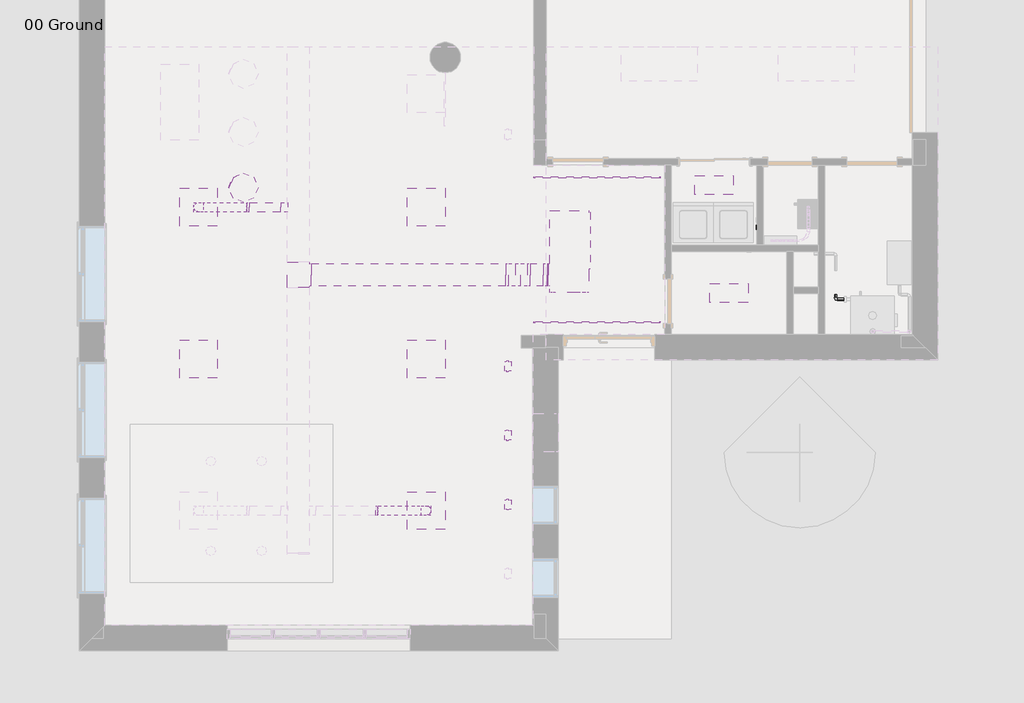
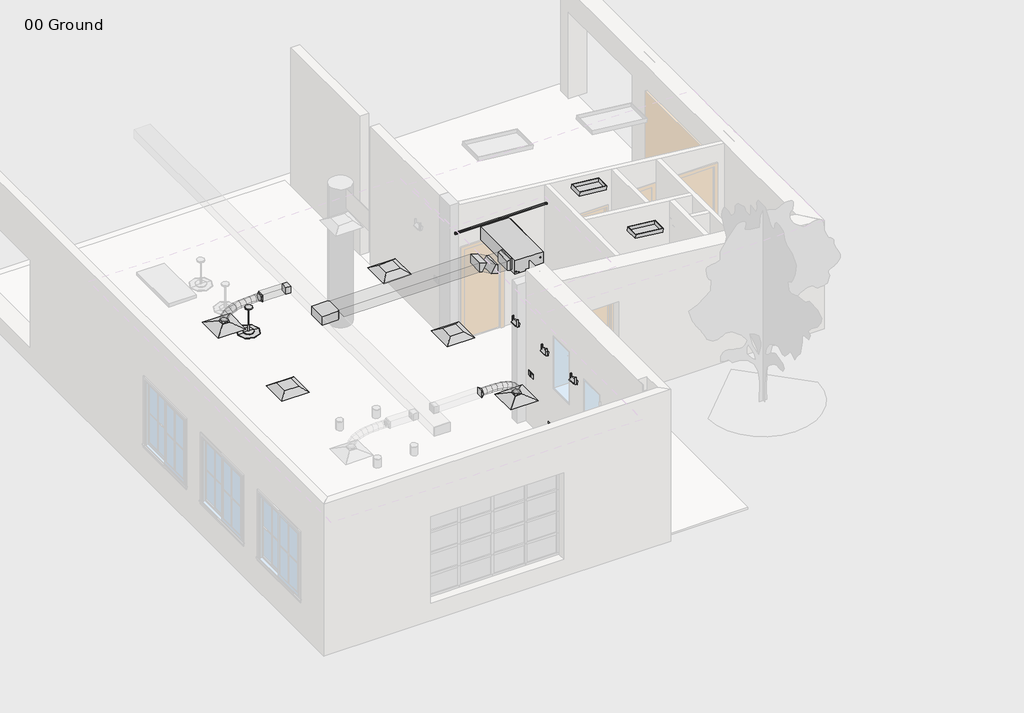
# One storey, part 4 of 7: 9 duct fittings, 8 light fixtures, 7 duct segments, 5 air terminals, 5 switching devices, 4 proxies, 2 pipe segments, 1 pipe fitting.
"""IFC4 building model written with IfcOpenShell, lengths in millimetres."""

from ifc_helpers import new_model, si_unit, point, frame, frame_2d, origin, place, context, project, spatial, polyline, circle_curve, ellipse_curve, trimmed, segment, composite_curve, outline, extrude, transform, mapped, element, save
from ifc_brep_helpers import plane_surface, cylinder_surface, advanced_brep
from components import m_return_diffuser_hosted_return_diffuser_600x600mm_735a5a32, m_supply_diffuser_hosted_supply_diffuser_600x600mm_c6a520ad, m_receptacle_220v_standard_10251bba, unit_60_e5105c5f, m_rectangular_elbow_radius_1_w_f31efba9, m_rectangular_takeoff_standard_4b23f397, m_rectangular_tee_standard_b38aa9c5, m_rectangular_transition_angle_45_degree_a7042dae, m_rectangular_to_round_transition_angle_45_degree_4e08f822, ceiling_light_linear_box_0300x0600mm_1_lamp_277v_269d04dc, m_downlight_spot_60_degree_tilt_277v_15926088, m_downlight_strip_2000mm_277v_8f60c8d5, m_downlight_strip_2000mm_277v_7a66b3e4, m_pendant_light_disk_150w_277v_c7fc852b, m_elbow_generic_standard_371413ad

model = new_model("IFC4")

# Units and contexts
model_context = context("Model", 3, world=origin())
ifc_project = project(units=[si_unit("LENGTHUNIT", "METRE", prefix="MILLI")], contexts=[model_context])

# Site, building, storey
site = spatial("IfcSite", under=ifc_project)
building = spatial("IfcBuilding", under=site)
storey = spatial("IfcBuildingStorey", under=building, Name="00 Ground", Elevation=0.0)

# Air terminals
placement = place(None, origin())
m_return_diffuser_hosted_return_diffuser_600x600mm_shape = m_return_diffuser_hosted_return_diffuser_600x600mm_735a5a32(model_context)
element("IfcAirTerminal", 1, ObjectType="M_Return Diffuser - Hosted : Return Diffuser 600x600mm", at=placement, inside=storey, context=model_context, shape_type="MappedRepresentation", body=[
    mapped(m_return_diffuser_hosted_return_diffuser_600x600mm_shape, transform((-6624.5407999, -3132.7101648, 2700.0), x_axis=(1.0, 0.0, 0.0), y_axis=(0.0, -1.0, 0.0), z_axis=(0.0, 0.0, -1.0))),
])
element("IfcAirTerminal", 2, ObjectType="M_Return Diffuser - Hosted : Return Diffuser 600x600mm", at=placement, inside=storey, context=model_context, shape_type="MappedRepresentation", body=[
    mapped(m_return_diffuser_hosted_return_diffuser_600x600mm_shape, transform((-3024.5407999, -3132.7101648, 2700.0), x_axis=(1.0, 0.0, 0.0), y_axis=(0.0, -1.0, 0.0), z_axis=(0.0, 0.0, -1.0))),
])
element("IfcAirTerminal", 3, ObjectType="M_Return Diffuser - Hosted : Return Diffuser 600x600mm", at=placement, inside=storey, context=model_context, shape_type="MappedRepresentation", body=[
    mapped(m_return_diffuser_hosted_return_diffuser_600x600mm_shape, transform((-3024.5407999, -732.7101648, 2700.0), x_axis=(1.0, 0.0, 0.0), y_axis=(0.0, -1.0, 0.0), z_axis=(0.0, 0.0, -1.0))),
])
m_supply_diffuser_hosted_supply_diffuser_600x600mm_shape = m_supply_diffuser_hosted_supply_diffuser_600x600mm_c6a520ad(model_context)
element("IfcAirTerminal", 4, ObjectType="M_Supply Diffuser - Hosted : Supply Diffuser 600x600mm", at=placement, inside=storey, context=model_context, shape_type="MappedRepresentation", body=[
    mapped(m_supply_diffuser_hosted_supply_diffuser_600x600mm_shape, transform((-6624.5407999, -732.7101648, 2700.0), x_axis=(1.0, 0.0, 0.0), y_axis=(0.0, -1.0, 0.0), z_axis=(0.0, 0.0, -1.0))),
])
element("IfcAirTerminal", 5, ObjectType="M_Supply Diffuser - Hosted : Supply Diffuser 600x600mm", at=placement, inside=storey, context=model_context, shape_type="MappedRepresentation", body=[
    mapped(m_supply_diffuser_hosted_supply_diffuser_600x600mm_shape, transform((-3024.5407999, -5532.7101648, 2700.0), x_axis=(1.0, 0.0, 0.0), y_axis=(0.0, -1.0, 0.0), z_axis=(0.0, 0.0, -1.0))),
])

# Proxies
m_receptacle_220v_standard_shape = m_receptacle_220v_standard_10251bba(model_context)
element("IfcBuildingElementProxy", 6, Name="M_Receptacle - 220V : Standard", ObjectType="M_Receptacle - 220V : Standard", at=placement, inside=storey, context=model_context, shape_type="MappedRepresentation", body=[
    mapped(m_receptacle_220v_standard_shape, transform((-1335.5407999, -3927.7101648, 460.0), x_axis=(0.0, -1.0, 0.0), y_axis=(0.0, 0.0, 1.0), z_axis=(-1.0, 0.0, 0.0))),
])
element("IfcBuildingElementProxy", 7, Name="M_Receptacle - 220V : Standard", ObjectType="M_Receptacle - 220V : Standard", at=placement, inside=storey, context=model_context, shape_type="MappedRepresentation", body=[
    mapped(m_receptacle_220v_standard_shape, transform((-1335.5407999, -3847.7101648, 460.0), x_axis=(0.0, -1.0, 0.0), y_axis=(0.0, 0.0, 1.0), z_axis=(-1.0, 0.0, 0.0))),
])
element("IfcBuildingElementProxy", 8, Name="M_Receptacle - 220V : Standard", ObjectType="M_Receptacle - 220V : Standard", at=placement, inside=storey, context=model_context, shape_type="MappedRepresentation", body=[
    mapped(m_receptacle_220v_standard_shape, transform((2202.4592001, -1052.7101648, 460.0), x_axis=(0.0, -1.0, 0.0), y_axis=(0.0, 0.0, 1.0), z_axis=(-1.0, 0.0, 0.0))),
])
unit_60_shape = unit_60_e5105c5f(model_context)
element("IfcBuildingElementProxy", 9, Name="M_WSHP - Horizontal : Unit 60", ObjectType="M_WSHP - Horizontal : Unit 60", at=placement, inside=storey, context=model_context, shape_type="MappedRepresentation", body=[
    mapped(unit_60_shape, transform((-1066.9679909, -783.2101648, 2765.0), x_axis=(0.0, -1.0, 0.0), y_axis=(1.0, 0.0, 0.0), z_axis=(0.0, 0.0, 1.0))),
])

# Duct fittings
m_rectangular_elbow_radius_1_w_shape = m_rectangular_elbow_radius_1_w_f31efba9(model_context)
element("IfcDuctFitting", 10, ObjectType="M_Rectangular Elbow - Radius : 1 W", at=placement, inside=storey, context=model_context, shape_type="MappedRepresentation", body=[
    mapped(m_rectangular_elbow_radius_1_w_shape, transform((-1714.6732409, -1802.2101648, 3090.0), x_axis=(1.0, 0.0, 0.0), y_axis=(0.0, 0.0, -1.0), z_axis=(0.0, 1.0, 0.0))),
])
element("IfcDuctFitting", 11, ObjectType="M_Rectangular Elbow - Radius : 1 W", at=placement, inside=storey, context=model_context, shape_type="MappedRepresentation", body=[
    mapped(m_rectangular_elbow_radius_1_w_shape, transform((-1429.5334622, -1802.2101648, 2925.3744989), x_axis=(0.8660254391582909, 0.0, -0.49999993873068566), y_axis=(0.49999993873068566, 0.0, 0.8660254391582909), z_axis=(0.0, -1.0, 0.0))),
])
m_rectangular_takeoff_standard_shape = m_rectangular_takeoff_standard_4b23f397(model_context)
element("IfcDuctFitting", 12, ObjectType="M_Rectangular Takeoff : Standard", at=placement, inside=storey, context=model_context, shape_type="MappedRepresentation", body=[
    mapped(m_rectangular_takeoff_standard_shape, transform((-5219.5407999, -732.7101648, 3090.0), x_axis=(-1.0, 0.0, 0.0), y_axis=(0.0, 1.0, 0.0), z_axis=(0.0, 0.0, -1.0))),
])
m_rectangular_tee_standard_shape = m_rectangular_tee_standard_b38aa9c5(model_context)
element("IfcDuctFitting", 13, ObjectType="M_Rectangular Tee : Standard", at=placement, inside=storey, context=model_context, shape_type="MappedRepresentation", body=[
    mapped(m_rectangular_tee_standard_shape, transform((-5044.5407999, -1802.2101648, 3090.0), x_axis=(0.0, 1.0, 0.0), y_axis=(-1.0, 0.0, 0.0), z_axis=(0.0, 0.0, 1.0))),
])
m_rectangular_transition_angle_45_degree_shape = m_rectangular_transition_angle_45_degree_a7042dae(model_context)
element("IfcDuctFitting", 14, ObjectType="M_Rectangular Transition - Angle : 45 Degree", at=placement, inside=storey, context=model_context, shape_type="MappedRepresentation", body=[
    mapped(m_rectangular_transition_angle_45_degree_shape, transform((-1172.9231661, -1802.2101648, 2925.3744989), x_axis=(1.0, 0.0, 0.0), y_axis=(0.0, 1.0, 0.0), z_axis=(0.0, 0.0, 1.0))),
])
m_rectangular_to_round_transition_angle_45_degree_shape = m_rectangular_to_round_transition_angle_45_degree_4e08f822(model_context)
element("IfcDuctFitting", 15, ObjectType="M_Rectangular to Round Transition - Angle : 45 Degree", at=placement, inside=storey, context=model_context, shape_type="MappedRepresentation", body=[
    mapped(m_rectangular_to_round_transition_angle_45_degree_shape, transform((-6624.5407999, -732.7101648, 2801.8523776), x_axis=(0.0, 0.0, 1.0), y_axis=(-1.0, 0.0, 0.0), z_axis=(0.0, -1.0, 0.0))),
])
element("IfcDuctFitting", 16, ObjectType="M_Rectangular to Round Transition - Angle : 45 Degree", at=placement, inside=storey, context=model_context, shape_type="MappedRepresentation", body=[
    mapped(m_rectangular_to_round_transition_angle_45_degree_shape, transform((-5824.8204567, -732.7101648, 3090.0), x_axis=(-1.0, 0.0, 0.0), y_axis=(0.0, -1.0, 0.0), z_axis=(0.0, 0.0, 1.0))),
])
element("IfcDuctFitting", 17, ObjectType="M_Rectangular to Round Transition - Angle : 45 Degree", at=placement, inside=storey, context=model_context, shape_type="MappedRepresentation", body=[
    mapped(m_rectangular_to_round_transition_angle_45_degree_shape, transform((-3024.5407999, -5532.7101648, 2801.8523776), x_axis=(0.0, 0.0, 1.0), y_axis=(-1.0, 0.0, 0.0), z_axis=(0.0, -1.0, 0.0))),
])
element("IfcDuctFitting", 18, ObjectType="M_Rectangular to Round Transition - Angle : 45 Degree", at=placement, inside=storey, context=model_context, shape_type="MappedRepresentation", body=[
    mapped(m_rectangular_to_round_transition_angle_45_degree_shape, transform((-3824.2611432, -5532.7101648, 3090.0), x_axis=(1.0, 0.0, 0.0), y_axis=(0.0, 1.0, 0.0), z_axis=(0.0, 0.0, 1.0))),
])

# Duct segments
element("IfcDuctSegment", 19, ObjectType="Flex - Round", at=placement, inside=storey, context=model_context, shape_type="AdvancedBrep", body=[
    advanced_brep(
    [(-6549.5407999, -732.7101648, 2839.3523776), (-6624.5407999, -807.7101648, 2839.3523776), (-6699.5407999, -732.7101648, 2839.3523776), (-6624.5407999, -657.7101648, 2839.3523776), (-6549.5407999, -732.7101648, 2845.2848901), (-6624.5407999, -807.7101648, 2855.419138), (-6699.5407999, -732.7101648, 2865.5533859), (-6624.5407999, -657.7101648, 2855.419138), (-6538.9605787, -732.7101648, 2883.7203187), (-6607.2067583, -807.7101648, 2918.3895908), (-6675.4529379, -732.7101648, 2953.0588628), (-6607.2067583, -657.7101648, 2918.3895908), (-6508.7482866, -732.7101648, 2921.7423363), (-6559.1665904, -807.7101648, 2978.8479003), (-6609.5848941, -732.7101648, 3035.9534644), (-6559.1665904, -657.7101648, 2978.8479003), (-6454.5294779, -732.7101648, 2954.7766158), (-6486.3632316, -807.7101648, 3023.205321), (-6518.1969853, -732.7101648, 3091.6340262), (-6486.3632316, -657.7101648, 3023.205321), (-6375.8137951, -732.7101648, 2981.1812805), (-6394.7396175, -807.7101648, 3053.9398674), (-6413.6654398, -732.7101648, 3126.6984544), (-6394.7396175, -657.7101648, 3053.9398674), (-6279.6508054, -732.7101648, 2999.207941), (-6290.2386834, -807.7101648, 3073.5295543), (-6300.8265614, -732.7101648, 3147.8511676), (-6290.2386834, -657.7101648, 3073.5295543), (-6173.5634766, -732.7101648, 3009.6065753), (-6178.8033648, -807.7101648, 3084.4523963), (-6184.043253, -732.7101648, 3159.2982173), (-6178.8033648, -657.7101648, 3084.4523963), (-6064.4414556, -732.7101648, 3014.2014325), (-6066.3765972, -807.7101648, 3089.1864082), (-6068.3117388, -732.7101648, 3164.1713838), (-6066.3765972, -657.7101648, 3089.1864082), (-5958.6256959, -732.7101648, 3015.2088297), (-5958.901316, -807.7101648, 3090.2096045), (-5959.1769362, -732.7101648, 3165.2103793), (-5958.901316, -657.7101648, 3090.2096045), (-5862.483225, -732.7101648, 3015.0001766), (-5862.3204567, -657.7101648, 3090.0), (-5862.1576884, -732.7101648, 3164.9998234), (-5862.3204567, -807.7101648, 3090.0)],
    [
        (0, 1, circle_curve(frame((-6624.5407999, -732.7101648, 2839.3523776), z_axis=(0.0, 0.0, -1.0), x_axis=(1.0, 0.0, 0.0)), 75.0)),
        (1, 2, circle_curve(frame((-6624.5407999, -732.7101648, 2839.3523776), z_axis=(0.0, 0.0, -1.0), x_axis=(1.0, 0.0, 0.0)), 75.0)),
        (2, 3, circle_curve(frame((-6624.5407999, -732.7101648, 2839.3523776), z_axis=(0.0, 0.0, -1.0), x_axis=(1.0, 0.0, 0.0)), 75.0)),
        (3, 0, circle_curve(frame((-6624.5407999, -732.7101648, 2839.3523776), z_axis=(0.0, 0.0, -1.0), x_axis=(1.0, 0.0, 0.0)), 75.0)),
        (0, 4),
        (4, 5, ellipse_curve(frame((-6624.5407999, -732.7101648, 2855.419138), z_axis=(-0.133906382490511, 0.0, -0.9909939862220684), x_axis=(0.9909939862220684, 0.0, -0.13390638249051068)), 75.6815894, 75.0)),
        (5, 1),
        (5, 6, ellipse_curve(frame((-6624.5407999, -732.7101648, 2855.419138), z_axis=(-0.133906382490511, 0.0, -0.9909939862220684), x_axis=(0.9909939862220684, 0.0, -0.13390638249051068)), 75.6815894, 75.0)),
        (6, 2),
        (6, 7, ellipse_curve(frame((-6624.5407999, -732.7101648, 2855.419138), z_axis=(-0.133906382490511, 0.0, -0.9909939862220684), x_axis=(0.9909939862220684, 0.0, -0.13390638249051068)), 75.6815894, 75.0)),
        (7, 3),
        (7, 4, ellipse_curve(frame((-6624.5407999, -732.7101648, 2855.419138), z_axis=(-0.133906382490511, 0.0, -0.9909939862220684), x_axis=(0.9909939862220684, 0.0, -0.13390638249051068)), 75.6815894, 75.0)),
        (4, 8),
        (8, 9, ellipse_curve(frame((-6607.2067583, -732.7101648, 2918.3895908), z_axis=(-0.45291266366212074, 0.0, -0.8915548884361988), x_axis=(0.8915548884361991, 0.0, -0.45291266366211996)), 76.5473674, 75.0)),
        (9, 5),
        (9, 10, ellipse_curve(frame((-6607.2067583, -732.7101648, 2918.3895908), z_axis=(-0.45291266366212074, 0.0, -0.8915548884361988), x_axis=(0.8915548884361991, 0.0, -0.45291266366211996)), 76.5473674, 75.0)),
        (10, 6),
        (10, 11, ellipse_curve(frame((-6607.2067583, -732.7101648, 2918.3895908), z_axis=(-0.45291266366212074, 0.0, -0.8915548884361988), x_axis=(0.8915548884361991, 0.0, -0.45291266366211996)), 76.5473674, 75.0)),
        (11, 7),
        (11, 8, ellipse_curve(frame((-6607.2067583, -732.7101648, 2918.3895908), z_axis=(-0.45291266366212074, 0.0, -0.8915548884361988), x_axis=(0.8915548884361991, 0.0, -0.45291266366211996)), 76.5473674, 75.0)),
        (8, 12),
        (12, 13, ellipse_curve(frame((-6559.1665904, -732.7101648, 2978.8479003), z_axis=(-0.749635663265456, 0.0, -0.6618507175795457), x_axis=(0.6618507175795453, 0.0, -0.7496356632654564)), 76.1777579, 75.0)),
        (13, 9),
        (13, 14, ellipse_curve(frame((-6559.1665904, -732.7101648, 2978.8479003), z_axis=(-0.749635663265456, 0.0, -0.6618507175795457), x_axis=(0.6618507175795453, 0.0, -0.7496356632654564)), 76.1777579, 75.0)),
        (14, 10),
        (14, 15, ellipse_curve(frame((-6559.1665904, -732.7101648, 2978.8479003), z_axis=(-0.749635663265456, 0.0, -0.6618507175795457), x_axis=(0.6618507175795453, 0.0, -0.7496356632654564)), 76.1777579, 75.0)),
        (15, 11),
        (15, 12, ellipse_curve(frame((-6559.1665904, -732.7101648, 2978.8479003), z_axis=(-0.749635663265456, 0.0, -0.6618507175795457), x_axis=(0.6618507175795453, 0.0, -0.7496356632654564)), 76.1777579, 75.0)),
        (12, 16),
        (16, 17, ellipse_curve(frame((-6486.3632316, -732.7101648, 3023.205321), z_axis=(-0.9066884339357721, 0.0, -0.42180100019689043), x_axis=(0.4218010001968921, 0.0, -0.9066884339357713)), 75.4710247, 75.0)),
        (17, 13),
        (17, 18, ellipse_curve(frame((-6486.3632316, -732.7101648, 3023.205321), z_axis=(-0.9066884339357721, 0.0, -0.42180100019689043), x_axis=(0.4218010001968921, 0.0, -0.9066884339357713)), 75.4710247, 75.0)),
        (18, 14),
        (18, 19, ellipse_curve(frame((-6486.3632316, -732.7101648, 3023.205321), z_axis=(-0.9066884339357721, 0.0, -0.42180100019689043), x_axis=(0.4218010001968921, 0.0, -0.9066884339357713)), 75.4710247, 75.0)),
        (19, 15),
        (19, 16, ellipse_curve(frame((-6486.3632316, -732.7101648, 3023.205321), z_axis=(-0.9066884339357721, 0.0, -0.42180100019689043), x_axis=(0.4218010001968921, 0.0, -0.9066884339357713)), 75.4710247, 75.0)),
        (16, 20),
        (20, 21, ellipse_curve(frame((-6394.7396175, -732.7101648, 3053.9398674), z_axis=(-0.9677946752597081, 0.0, -0.25174087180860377), x_axis=(0.25174087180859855, 0.0, -0.9677946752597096)), 75.179776, 75.0)),
        (21, 17),
        (21, 22, ellipse_curve(frame((-6394.7396175, -732.7101648, 3053.9398674), z_axis=(-0.9677946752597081, 0.0, -0.25174087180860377), x_axis=(0.25174087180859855, 0.0, -0.9677946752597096)), 75.179776, 75.0)),
        (22, 18),
        (22, 23, ellipse_curve(frame((-6394.7396175, -732.7101648, 3053.9398674), z_axis=(-0.9677946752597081, 0.0, -0.25174087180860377), x_axis=(0.25174087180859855, 0.0, -0.9677946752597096)), 75.179776, 75.0)),
        (23, 19),
        (23, 20, ellipse_curve(frame((-6394.7396175, -732.7101648, 3053.9398674), z_axis=(-0.9677946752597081, 0.0, -0.25174087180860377), x_axis=(0.25174087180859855, 0.0, -0.9677946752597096)), 75.179776, 75.0)),
        (20, 24),
        (24, 25, ellipse_curve(frame((-6290.2386834, -732.7101648, 3073.5295543), z_axis=(-0.9900044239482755, 0.0, -0.14103630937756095), x_axis=(0.1410363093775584, 0.0, -0.9900044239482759)), 75.0720012, 75.0)),
        (25, 21),
        (25, 26, ellipse_curve(frame((-6290.2386834, -732.7101648, 3073.5295543), z_axis=(-0.9900044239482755, 0.0, -0.14103630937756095), x_axis=(0.1410363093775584, 0.0, -0.9900044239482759)), 75.0720012, 75.0)),
        (26, 22),
        (26, 27, ellipse_curve(frame((-6290.2386834, -732.7101648, 3073.5295543), z_axis=(-0.9900044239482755, 0.0, -0.14103630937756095), x_axis=(0.1410363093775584, 0.0, -0.9900044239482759)), 75.0720012, 75.0)),
        (27, 23),
        (27, 24, ellipse_curve(frame((-6290.2386834, -732.7101648, 3073.5295543), z_axis=(-0.9900044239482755, 0.0, -0.14103630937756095), x_axis=(0.1410363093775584, 0.0, -0.9900044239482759)), 75.0720012, 75.0)),
        (24, 28),
        (28, 29, ellipse_curve(frame((-6178.8033648, -732.7101648, 3084.4523963), z_axis=(-0.9975583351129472, 0.0, -0.06983815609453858), x_axis=(0.06983815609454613, 0.0, -0.9975583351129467)), 75.0290167, 75.0)),
        (29, 25),
        (29, 30, ellipse_curve(frame((-6178.8033648, -732.7101648, 3084.4523963), z_axis=(-0.9975583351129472, 0.0, -0.06983815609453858), x_axis=(0.06983815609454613, 0.0, -0.9975583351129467)), 75.0290167, 75.0)),
        (30, 26),
        (30, 31, ellipse_curve(frame((-6178.8033648, -732.7101648, 3084.4523963), z_axis=(-0.9975583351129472, 0.0, -0.06983815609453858), x_axis=(0.06983815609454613, 0.0, -0.9975583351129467)), 75.0290167, 75.0)),
        (31, 27),
        (31, 28, ellipse_curve(frame((-6178.8033648, -732.7101648, 3084.4523963), z_axis=(-0.9975583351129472, 0.0, -0.06983815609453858), x_axis=(0.06983815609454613, 0.0, -0.9975583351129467)), 75.0290167, 75.0)),
        (28, 32),
        (32, 33, ellipse_curve(frame((-6066.3765972, -732.7101648, 3089.1864082), z_axis=(-0.9996671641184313, 0.0, -0.02579846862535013), x_axis=(0.02579846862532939, 0.0, -0.999667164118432)), 75.0099417, 75.0)),
        (33, 29),
        (33, 34, ellipse_curve(frame((-6066.3765972, -732.7101648, 3089.1864082), z_axis=(-0.9996671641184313, 0.0, -0.02579846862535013), x_axis=(0.02579846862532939, 0.0, -0.999667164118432)), 75.0099417, 75.0)),
        (34, 30),
        (34, 35, ellipse_curve(frame((-6066.3765972, -732.7101648, 3089.1864082), z_axis=(-0.9996671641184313, 0.0, -0.02579846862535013), x_axis=(0.02579846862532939, 0.0, -0.999667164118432)), 75.0099417, 75.0)),
        (35, 31),
        (35, 32, ellipse_curve(frame((-6066.3765972, -732.7101648, 3089.1864082), z_axis=(-0.9996671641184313, 0.0, -0.02579846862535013), x_axis=(0.02579846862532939, 0.0, -0.999667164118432)), 75.0099417, 75.0)),
        (32, 36),
        (36, 37, ellipse_curve(frame((-5958.901316, -732.7101648, 3090.2096045), z_axis=(-0.999993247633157, 0.0, -0.0036748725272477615), x_axis=(0.0036748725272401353, 0.0, -0.999993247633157)), 75.0012812, 75.0)),
        (37, 33),
        (37, 38, ellipse_curve(frame((-5958.901316, -732.7101648, 3090.2096045), z_axis=(-0.999993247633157, 0.0, -0.0036748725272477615), x_axis=(0.0036748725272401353, 0.0, -0.999993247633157)), 75.0012812, 75.0)),
        (38, 34),
        (38, 39, ellipse_curve(frame((-5958.901316, -732.7101648, 3090.2096045), z_axis=(-0.999993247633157, 0.0, -0.0036748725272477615), x_axis=(0.0036748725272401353, 0.0, -0.999993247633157)), 75.0012812, 75.0)),
        (39, 35),
        (39, 36, ellipse_curve(frame((-5958.901316, -732.7101648, 3090.2096045), z_axis=(-0.999993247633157, 0.0, -0.0036748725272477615), x_axis=(0.0036748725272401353, 0.0, -0.999993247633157)), 75.0012812, 75.0)),
        (40, 41, circle_curve(frame((-5862.3204567, -732.7101648, 3090.0), z_axis=(0.9999976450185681, 0.0, -0.002170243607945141), x_axis=(-0.002170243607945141, 0.0, -0.9999976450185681)), 75.0)),
        (41, 42, circle_curve(frame((-5862.3204567, -732.7101648, 3090.0), z_axis=(0.9999976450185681, 0.0, -0.002170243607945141), x_axis=(-0.002170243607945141, 0.0, -0.9999976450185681)), 75.0)),
        (42, 43, circle_curve(frame((-5862.3204567, -732.7101648, 3090.0), z_axis=(0.9999976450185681, 0.0, -0.002170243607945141), x_axis=(-0.002170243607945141, 0.0, -0.9999976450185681)), 75.0)),
        (43, 40, circle_curve(frame((-5862.3204567, -732.7101648, 3090.0), z_axis=(0.9999976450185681, 0.0, -0.002170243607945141), x_axis=(-0.002170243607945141, 0.0, -0.9999976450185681)), 75.0)),
        (36, 40),
        (43, 37),
        (42, 38),
        (41, 39),
    ],
    [
        plane_surface(frame((-6624.5407999, -807.7101648, 2839.3523776), z_axis=(0.0, 0.0, -1.0), x_axis=(1.0, 0.0, 0.0))),
        cylinder_surface(frame((-6624.5407999, -732.7101648, 2839.3523776), z_axis=(0.0, 0.0, -1.0), x_axis=(1.0, 0.0, 0.0)), 75.0),
        cylinder_surface(frame((-6624.5407999, -732.7101648, 2855.419138), z_axis=(-0.26540083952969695, 0.0, -0.96413816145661), x_axis=(0.96413816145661, 0.0, -0.26540083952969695)), 75.0),
        cylinder_surface(frame((-6607.2067583, -732.7101648, 2918.3895908), z_axis=(-0.6221136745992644, 0.0, -0.7829269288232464), x_axis=(0.7829269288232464, 0.0, -0.6221136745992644)), 75.0),
        cylinder_surface(frame((-6559.1665904, -732.7101648, 2978.8479003), z_axis=(-0.853977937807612, 0.0, -0.5203092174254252), x_axis=(0.5203092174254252, 0.0, -0.853977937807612)), 75.0),
        cylinder_surface(frame((-6486.3632316, -732.7101648, 3023.205321), z_axis=(-0.9480814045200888, 0.0, -0.31802775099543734), x_axis=(0.31802775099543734, 0.0, -0.9480814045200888)), 75.0),
        cylinder_surface(frame((-6394.7396175, -732.7101648, 3053.9398674), z_axis=(-0.9828794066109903, 0.0, -0.1842500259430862), x_axis=(0.1842500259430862, 0.0, -0.9828794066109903)), 75.0),
        cylinder_surface(frame((-6290.2386834, -732.7101648, 3073.5295543), z_axis=(-0.9952304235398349, 0.0, -0.09755205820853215), x_axis=(0.09755205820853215, 0.0, -0.9952304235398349)), 75.0),
        cylinder_surface(frame((-6178.8033648, -732.7101648, 3084.4523963), z_axis=(-0.9991146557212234, 0.0, -0.04207023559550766), x_axis=(0.04207023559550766, 0.0, -0.9991146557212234)), 75.0),
        cylinder_surface(frame((-6066.3765972, -732.7101648, 3089.1864082), z_axis=(-0.9999546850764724, 0.0, -0.00951986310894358), x_axis=(0.00951986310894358, 0.0, -0.9999546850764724)), 75.0),
        plane_surface(frame((-5862.3204567, -657.7101648, 3090.0), z_axis=(0.9999976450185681, 0.0, -0.0021702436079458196), x_axis=(0.0021702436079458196, 0.0, 0.9999976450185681))),
        cylinder_surface(frame((-5958.901316, -732.7101648, 3090.2096045), z_axis=(-0.9999976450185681, 0.0, 0.002170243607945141), x_axis=(-0.002170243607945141, 0.0, -0.9999976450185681)), 75.0),
    ],
    [
        (0, [[1, 2, 3, 4]]),
        (1, [[-1, 5, 6, 7]]),
        (1, [[-2, -7, 8, 9]]),
        (1, [[-3, -9, 10, 11]]),
        (1, [[-4, -11, 12, -5]]),
        (2, [[-6, 13, 14, 15]]),
        (2, [[-8, -15, 16, 17]]),
        (2, [[-10, -17, 18, 19]]),
        (2, [[-12, -19, 20, -13]]),
        (3, [[-14, 21, 22, 23]]),
        (3, [[-16, -23, 24, 25]]),
        (3, [[-18, -25, 26, 27]]),
        (3, [[-20, -27, 28, -21]]),
        (4, [[-22, 29, 30, 31]]),
        (4, [[-24, -31, 32, 33]]),
        (4, [[-26, -33, 34, 35]]),
        (4, [[-28, -35, 36, -29]]),
        (5, [[-30, 37, 38, 39]]),
        (5, [[-32, -39, 40, 41]]),
        (5, [[-34, -41, 42, 43]]),
        (5, [[-36, -43, 44, -37]]),
        (6, [[-38, 45, 46, 47]]),
        (6, [[-40, -47, 48, 49]]),
        (6, [[-42, -49, 50, 51]]),
        (6, [[-44, -51, 52, -45]]),
        (7, [[-46, 53, 54, 55]]),
        (7, [[-48, -55, 56, 57]]),
        (7, [[-50, -57, 58, 59]]),
        (7, [[-52, -59, 60, -53]]),
        (8, [[-54, 61, 62, 63]]),
        (8, [[-56, -63, 64, 65]]),
        (8, [[-58, -65, 66, 67]]),
        (8, [[-60, -67, 68, -61]]),
        (9, [[-62, 69, 70, 71]]),
        (9, [[-64, -71, 72, 73]]),
        (9, [[-66, -73, 74, 75]]),
        (9, [[-68, -75, 76, -69]]),
        (10, [[77, 78, 79, 80]]),
        (11, [[-70, 81, -80, 82]]),
        (11, [[-72, -82, -79, 83]]),
        (11, [[-74, -83, -78, 84]]),
        (11, [[-76, -84, -77, -81]]),
    ],
),
])
element("IfcDuctSegment", 20, ObjectType="Flex - Round", at=placement, inside=storey, context=model_context, shape_type="AdvancedBrep", body=[
    advanced_brep(
    [(-2949.5407999, -5532.7101648, 2839.3523776), (-3024.5407999, -5607.7101648, 2839.3523776), (-3099.5407999, -5532.7101648, 2839.3523776), (-3024.5407999, -5457.7101648, 2839.3523776), (-2949.5407999, -5532.7101648, 2865.5533859), (-3024.5407999, -5607.7101648, 2855.419138), (-3099.5407999, -5532.7101648, 2845.2848901), (-3024.5407999, -5457.7101648, 2855.419138), (-2973.628662, -5532.7101648, 2953.0588628), (-3041.8748416, -5607.7101648, 2918.3895908), (-3110.1210211, -5532.7101648, 2883.7203187), (-3041.8748416, -5457.7101648, 2918.3895908), (-3039.4967058, -5532.7101648, 3035.9534644), (-3089.9150095, -5607.7101648, 2978.8479003), (-3140.3333132, -5532.7101648, 2921.7423363), (-3089.9150095, -5457.7101648, 2978.8479003), (-3130.8846146, -5532.7101648, 3091.6340262), (-3162.7183683, -5607.7101648, 3023.205321), (-3194.552122, -5532.7101648, 2954.7766158), (-3162.7183683, -5457.7101648, 3023.205321), (-3235.4161601, -5532.7101648, 3126.6984544), (-3254.3419824, -5607.7101648, 3053.9398674), (-3273.2678048, -5532.7101648, 2981.1812805), (-3254.3419824, -5457.7101648, 3053.9398674), (-3348.2550385, -5532.7101648, 3147.8511676), (-3358.8429165, -5607.7101648, 3073.5295543), (-3369.4307945, -5532.7101648, 2999.207941), (-3358.8429165, -5457.7101648, 3073.5295543), (-3465.0383469, -5532.7101648, 3159.2982173), (-3470.2782351, -5607.7101648, 3084.4523963), (-3475.5181233, -5532.7101648, 3009.6065753), (-3470.2782351, -5457.7101648, 3084.4523963), (-3580.769861, -5532.7101648, 3164.1713838), (-3582.7050027, -5607.7101648, 3089.1864082), (-3584.6401443, -5532.7101648, 3014.2014325), (-3582.7050027, -5457.7101648, 3089.1864082), (-3689.9046637, -5532.7101648, 3165.2103793), (-3690.1802839, -5607.7101648, 3090.2096045), (-3690.455904, -5532.7101648, 3015.2088297), (-3690.1802839, -5457.7101648, 3090.2096045), (-3786.9239114, -5532.7101648, 3164.9998234), (-3786.7611432, -5607.7101648, 3090.0), (-3786.5983749, -5532.7101648, 3015.0001766), (-3786.7611432, -5457.7101648, 3090.0)],
    [
        (0, 1, circle_curve(frame((-3024.5407999, -5532.7101648, 2839.3523776), z_axis=(0.0, 0.0, -1.0), x_axis=(1.0, 0.0, 0.0)), 75.0)),
        (1, 2, circle_curve(frame((-3024.5407999, -5532.7101648, 2839.3523776), z_axis=(0.0, 0.0, -1.0), x_axis=(1.0, 0.0, 0.0)), 75.0)),
        (2, 3, circle_curve(frame((-3024.5407999, -5532.7101648, 2839.3523776), z_axis=(0.0, 0.0, -1.0), x_axis=(1.0, 0.0, 0.0)), 75.0)),
        (3, 0, circle_curve(frame((-3024.5407999, -5532.7101648, 2839.3523776), z_axis=(0.0, 0.0, -1.0), x_axis=(1.0, 0.0, 0.0)), 75.0)),
        (0, 4),
        (4, 5, ellipse_curve(frame((-3024.5407999, -5532.7101648, 2855.419138), z_axis=(0.13390638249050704, 0.0, -0.9909939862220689), x_axis=(-0.9909939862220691, 0.0, -0.13390638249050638)), 75.6815894, 75.0)),
        (5, 1),
        (5, 6, ellipse_curve(frame((-3024.5407999, -5532.7101648, 2855.419138), z_axis=(0.13390638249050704, 0.0, -0.9909939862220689), x_axis=(-0.9909939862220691, 0.0, -0.13390638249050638)), 75.6815894, 75.0)),
        (6, 2),
        (6, 7, ellipse_curve(frame((-3024.5407999, -5532.7101648, 2855.419138), z_axis=(0.13390638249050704, 0.0, -0.9909939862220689), x_axis=(-0.9909939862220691, 0.0, -0.13390638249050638)), 75.6815894, 75.0)),
        (7, 3),
        (7, 4, ellipse_curve(frame((-3024.5407999, -5532.7101648, 2855.419138), z_axis=(0.13390638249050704, 0.0, -0.9909939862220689), x_axis=(-0.9909939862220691, 0.0, -0.13390638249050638)), 75.6815894, 75.0)),
        (4, 8),
        (8, 9, ellipse_curve(frame((-3041.8748416, -5532.7101648, 2918.3895908), z_axis=(0.45291266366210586, 0.0, -0.8915548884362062), x_axis=(-0.8915548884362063, 0.0, -0.4529126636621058)), 76.5473674, 75.0)),
        (9, 5),
        (9, 10, ellipse_curve(frame((-3041.8748416, -5532.7101648, 2918.3895908), z_axis=(0.45291266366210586, 0.0, -0.8915548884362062), x_axis=(-0.8915548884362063, 0.0, -0.4529126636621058)), 76.5473674, 75.0)),
        (10, 6),
        (10, 11, ellipse_curve(frame((-3041.8748416, -5532.7101648, 2918.3895908), z_axis=(0.45291266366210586, 0.0, -0.8915548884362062), x_axis=(-0.8915548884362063, 0.0, -0.4529126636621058)), 76.5473674, 75.0)),
        (11, 7),
        (11, 8, ellipse_curve(frame((-3041.8748416, -5532.7101648, 2918.3895908), z_axis=(0.45291266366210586, 0.0, -0.8915548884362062), x_axis=(-0.8915548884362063, 0.0, -0.4529126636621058)), 76.5473674, 75.0)),
        (8, 12),
        (12, 13, ellipse_curve(frame((-3089.9150095, -5532.7101648, 2978.8479003), z_axis=(0.7496356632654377, 0.0, -0.6618507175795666), x_axis=(-0.6618507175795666, 0.0, -0.7496356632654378)), 76.1777579, 75.0)),
        (13, 9),
        (13, 14, ellipse_curve(frame((-3089.9150095, -5532.7101648, 2978.8479003), z_axis=(0.7496356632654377, 0.0, -0.6618507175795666), x_axis=(-0.6618507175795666, 0.0, -0.7496356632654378)), 76.1777579, 75.0)),
        (14, 10),
        (14, 15, ellipse_curve(frame((-3089.9150095, -5532.7101648, 2978.8479003), z_axis=(0.7496356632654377, 0.0, -0.6618507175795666), x_axis=(-0.6618507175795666, 0.0, -0.7496356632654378)), 76.1777579, 75.0)),
        (15, 11),
        (15, 12, ellipse_curve(frame((-3089.9150095, -5532.7101648, 2978.8479003), z_axis=(0.7496356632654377, 0.0, -0.6618507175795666), x_axis=(-0.6618507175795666, 0.0, -0.7496356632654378)), 76.1777579, 75.0)),
        (12, 16),
        (16, 17, ellipse_curve(frame((-3162.7183683, -5532.7101648, 3023.205321), z_axis=(0.9066884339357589, 0.0, -0.42180100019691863), x_axis=(-0.4218010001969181, 0.0, -0.906688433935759)), 75.4710247, 75.0)),
        (17, 13),
        (17, 18, ellipse_curve(frame((-3162.7183683, -5532.7101648, 3023.205321), z_axis=(0.9066884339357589, 0.0, -0.42180100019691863), x_axis=(-0.4218010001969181, 0.0, -0.906688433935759)), 75.4710247, 75.0)),
        (18, 14),
        (18, 19, ellipse_curve(frame((-3162.7183683, -5532.7101648, 3023.205321), z_axis=(0.9066884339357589, 0.0, -0.42180100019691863), x_axis=(-0.4218010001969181, 0.0, -0.906688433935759)), 75.4710247, 75.0)),
        (19, 15),
        (19, 16, ellipse_curve(frame((-3162.7183683, -5532.7101648, 3023.205321), z_axis=(0.9066884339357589, 0.0, -0.42180100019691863), x_axis=(-0.4218010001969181, 0.0, -0.906688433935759)), 75.4710247, 75.0)),
        (16, 20),
        (20, 21, ellipse_curve(frame((-3254.3419824, -5532.7101648, 3053.9398674), z_axis=(0.9677946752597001, 0.0, -0.25174087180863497), x_axis=(-0.25174087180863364, 0.0, -0.9677946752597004)), 75.179776, 75.0)),
        (21, 17),
        (21, 22, ellipse_curve(frame((-3254.3419824, -5532.7101648, 3053.9398674), z_axis=(0.9677946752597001, 0.0, -0.25174087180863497), x_axis=(-0.25174087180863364, 0.0, -0.9677946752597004)), 75.179776, 75.0)),
        (22, 18),
        (22, 23, ellipse_curve(frame((-3254.3419824, -5532.7101648, 3053.9398674), z_axis=(0.9677946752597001, 0.0, -0.25174087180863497), x_axis=(-0.25174087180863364, 0.0, -0.9677946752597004)), 75.179776, 75.0)),
        (23, 19),
        (23, 20, ellipse_curve(frame((-3254.3419824, -5532.7101648, 3053.9398674), z_axis=(0.9677946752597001, 0.0, -0.25174087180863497), x_axis=(-0.25174087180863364, 0.0, -0.9677946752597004)), 75.179776, 75.0)),
        (20, 24),
        (24, 25, ellipse_curve(frame((-3358.8429165, -5532.7101648, 3073.5295543), z_axis=(0.9900044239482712, 0.0, -0.14103630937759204), x_axis=(-0.14103630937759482, 0.0, -0.9900044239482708)), 75.0720012, 75.0)),
        (25, 21),
        (25, 26, ellipse_curve(frame((-3358.8429165, -5532.7101648, 3073.5295543), z_axis=(0.9900044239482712, 0.0, -0.14103630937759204), x_axis=(-0.14103630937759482, 0.0, -0.9900044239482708)), 75.0720012, 75.0)),
        (26, 22),
        (26, 27, ellipse_curve(frame((-3358.8429165, -5532.7101648, 3073.5295543), z_axis=(0.9900044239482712, 0.0, -0.14103630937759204), x_axis=(-0.14103630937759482, 0.0, -0.9900044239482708)), 75.0720012, 75.0)),
        (27, 23),
        (27, 24, ellipse_curve(frame((-3358.8429165, -5532.7101648, 3073.5295543), z_axis=(0.9900044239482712, 0.0, -0.14103630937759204), x_axis=(-0.14103630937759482, 0.0, -0.9900044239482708)), 75.0720012, 75.0)),
        (24, 28),
        (28, 29, ellipse_curve(frame((-3470.2782351, -5532.7101648, 3084.4523963), z_axis=(0.9975583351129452, 0.0, -0.06983815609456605), x_axis=(-0.06983815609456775, 0.0, -0.9975583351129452)), 75.0290167, 75.0)),
        (29, 25),
        (29, 30, ellipse_curve(frame((-3470.2782351, -5532.7101648, 3084.4523963), z_axis=(0.9975583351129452, 0.0, -0.06983815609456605), x_axis=(-0.06983815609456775, 0.0, -0.9975583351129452)), 75.0290167, 75.0)),
        (30, 26),
        (30, 31, ellipse_curve(frame((-3470.2782351, -5532.7101648, 3084.4523963), z_axis=(0.9975583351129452, 0.0, -0.06983815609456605), x_axis=(-0.06983815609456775, 0.0, -0.9975583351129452)), 75.0290167, 75.0)),
        (31, 27),
        (31, 28, ellipse_curve(frame((-3470.2782351, -5532.7101648, 3084.4523963), z_axis=(0.9975583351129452, 0.0, -0.06983815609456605), x_axis=(-0.06983815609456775, 0.0, -0.9975583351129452)), 75.0290167, 75.0)),
        (28, 32),
        (32, 33, ellipse_curve(frame((-3582.7050027, -5532.7101648, 3089.1864082), z_axis=(0.999667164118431, 0.0, -0.025798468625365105), x_axis=(-0.025798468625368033, 0.0, -0.9996671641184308)), 75.0099417, 75.0)),
        (33, 29),
        (33, 34, ellipse_curve(frame((-3582.7050027, -5532.7101648, 3089.1864082), z_axis=(0.999667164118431, 0.0, -0.025798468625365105), x_axis=(-0.025798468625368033, 0.0, -0.9996671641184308)), 75.0099417, 75.0)),
        (34, 30),
        (34, 35, ellipse_curve(frame((-3582.7050027, -5532.7101648, 3089.1864082), z_axis=(0.999667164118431, 0.0, -0.025798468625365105), x_axis=(-0.025798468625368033, 0.0, -0.9996671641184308)), 75.0099417, 75.0)),
        (35, 31),
        (35, 32, ellipse_curve(frame((-3582.7050027, -5532.7101648, 3089.1864082), z_axis=(0.999667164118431, 0.0, -0.025798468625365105), x_axis=(-0.025798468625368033, 0.0, -0.9996671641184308)), 75.0099417, 75.0)),
        (32, 36),
        (36, 37, ellipse_curve(frame((-3690.1802839, -5532.7101648, 3090.2096045), z_axis=(0.999993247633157, 0.0, -0.0036748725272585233), x_axis=(-0.0036748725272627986, 0.0, -0.9999932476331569)), 75.0012812, 75.0)),
        (37, 33),
        (37, 38, ellipse_curve(frame((-3690.1802839, -5532.7101648, 3090.2096045), z_axis=(0.999993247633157, 0.0, -0.0036748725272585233), x_axis=(-0.0036748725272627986, 0.0, -0.9999932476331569)), 75.0012812, 75.0)),
        (38, 34),
        (38, 39, ellipse_curve(frame((-3690.1802839, -5532.7101648, 3090.2096045), z_axis=(0.999993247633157, 0.0, -0.0036748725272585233), x_axis=(-0.0036748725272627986, 0.0, -0.9999932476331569)), 75.0012812, 75.0)),
        (39, 35),
        (39, 36, ellipse_curve(frame((-3690.1802839, -5532.7101648, 3090.2096045), z_axis=(0.999993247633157, 0.0, -0.0036748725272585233), x_axis=(-0.0036748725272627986, 0.0, -0.9999932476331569)), 75.0012812, 75.0)),
        (36, 40),
        (40, 41, circle_curve(frame((-3786.7611432, -5532.7101648, 3090.0), z_axis=(0.9999976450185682, 0.0, 0.002170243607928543), x_axis=(-0.002170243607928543, 0.0, 0.9999976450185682)), 75.0)),
        (41, 37),
        (41, 42, circle_curve(frame((-3786.7611432, -5532.7101648, 3090.0), z_axis=(0.9999976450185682, 0.0, 0.002170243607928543), x_axis=(-0.002170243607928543, 0.0, 0.9999976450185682)), 75.0)),
        (42, 38),
        (42, 43, circle_curve(frame((-3786.7611432, -5532.7101648, 3090.0), z_axis=(0.9999976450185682, 0.0, 0.002170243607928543), x_axis=(-0.002170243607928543, 0.0, 0.9999976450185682)), 75.0)),
        (43, 39),
        (43, 40, circle_curve(frame((-3786.7611432, -5532.7101648, 3090.0), z_axis=(0.9999976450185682, 0.0, 0.002170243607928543), x_axis=(-0.002170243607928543, 0.0, 0.9999976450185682)), 75.0)),
    ],
    [
        plane_surface(frame((-3024.5407999, -5607.7101648, 2839.3523776), z_axis=(0.0, 0.0, -1.0), x_axis=(1.0, 0.0, 0.0))),
        cylinder_surface(frame((-3024.5407999, -5532.7101648, 2839.3523776), z_axis=(0.0, 0.0, -1.0), x_axis=(1.0, 0.0, 0.0)), 75.0),
        cylinder_surface(frame((-3024.5407999, -5532.7101648, 2855.419138), z_axis=(0.26540083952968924, 0.0, -0.9641381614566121), x_axis=(0.9641381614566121, 0.0, 0.26540083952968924)), 75.0),
        cylinder_surface(frame((-3041.8748416, -5532.7101648, 2918.3895908), z_axis=(0.6221136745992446, 0.0, -0.7829269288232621), x_axis=(0.7829269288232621, 0.0, 0.6221136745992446)), 75.0),
        cylinder_surface(frame((-3089.9150095, -5532.7101648, 2978.8479003), z_axis=(0.8539779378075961, 0.0, -0.5203092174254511), x_axis=(0.5203092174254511, 0.0, 0.8539779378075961)), 75.0),
        cylinder_surface(frame((-3162.7183683, -5532.7101648, 3023.205321), z_axis=(0.9480814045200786, 0.0, -0.3180277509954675), x_axis=(0.3180277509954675, 0.0, 0.9480814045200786)), 75.0),
        cylinder_surface(frame((-3254.3419824, -5532.7101648, 3053.9398674), z_axis=(0.9828794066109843, 0.0, -0.18425002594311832), x_axis=(0.18425002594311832, 0.0, 0.9828794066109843)), 75.0),
        cylinder_surface(frame((-3358.8429165, -5532.7101648, 3073.5295543), z_axis=(0.9952304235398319, 0.0, -0.09755205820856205), x_axis=(0.09755205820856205, 0.0, 0.9952304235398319)), 75.0),
        cylinder_surface(frame((-3470.2782351, -5532.7101648, 3084.4523963), z_axis=(0.9991146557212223, 0.0, -0.042070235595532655), x_axis=(0.042070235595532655, 0.0, 0.9991146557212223)), 75.0),
        cylinder_surface(frame((-3582.7050027, -5532.7101648, 3089.1864082), z_axis=(0.9999546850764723, 0.0, -0.009519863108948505), x_axis=(0.009519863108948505, 0.0, 0.9999546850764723)), 75.0),
        cylinder_surface(frame((-3690.1802839, -5532.7101648, 3090.2096045), z_axis=(0.9999976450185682, 0.0, 0.002170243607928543), x_axis=(-0.002170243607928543, 0.0, 0.9999976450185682)), 75.0),
        plane_surface(frame((-3786.7611432, -5457.7101648, 3090.0), z_axis=(-0.9999976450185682, 0.0, -0.0021702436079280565), x_axis=(0.0021702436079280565, 0.0, -0.9999976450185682))),
    ],
    [
        (0, [[1, 2, 3, 4]]),
        (1, [[-1, 5, 6, 7]]),
        (1, [[-2, -7, 8, 9]]),
        (1, [[-3, -9, 10, 11]]),
        (1, [[-4, -11, 12, -5]]),
        (2, [[-6, 13, 14, 15]]),
        (2, [[-8, -15, 16, 17]]),
        (2, [[-10, -17, 18, 19]]),
        (2, [[-12, -19, 20, -13]]),
        (3, [[-14, 21, 22, 23]]),
        (3, [[-16, -23, 24, 25]]),
        (3, [[-18, -25, 26, 27]]),
        (3, [[-20, -27, 28, -21]]),
        (4, [[-22, 29, 30, 31]]),
        (4, [[-24, -31, 32, 33]]),
        (4, [[-26, -33, 34, 35]]),
        (4, [[-28, -35, 36, -29]]),
        (5, [[-30, 37, 38, 39]]),
        (5, [[-32, -39, 40, 41]]),
        (5, [[-34, -41, 42, 43]]),
        (5, [[-36, -43, 44, -37]]),
        (6, [[-38, 45, 46, 47]]),
        (6, [[-40, -47, 48, 49]]),
        (6, [[-42, -49, 50, 51]]),
        (6, [[-44, -51, 52, -45]]),
        (7, [[-46, 53, 54, 55]]),
        (7, [[-48, -55, 56, 57]]),
        (7, [[-50, -57, 58, 59]]),
        (7, [[-52, -59, 60, -53]]),
        (8, [[-54, 61, 62, 63]]),
        (8, [[-56, -63, 64, 65]]),
        (8, [[-58, -65, 66, 67]]),
        (8, [[-60, -67, 68, -61]]),
        (9, [[-62, 69, 70, 71]]),
        (9, [[-64, -71, 72, 73]]),
        (9, [[-66, -73, 74, 75]]),
        (9, [[-68, -75, 76, -69]]),
        (10, [[-70, 77, 78, 79]]),
        (10, [[-72, -79, 80, 81]]),
        (10, [[-74, -81, 82, 83]]),
        (10, [[-76, -83, 84, -77]]),
        (11, [[-84, -82, -80, -78]]),
    ],
),
])
element("IfcDuctSegment", 21, ObjectType="Radius Elbows / Taps", at=placement, inside=storey, context=model_context, shape_type="SweptSolid", body=[
    extrude(outline(polyline([(-1172.9231661, -1627.2101648), (-1172.9231661, -1977.2101648), (-1375.9436313, -1977.2101648), (-1375.9436313, -1627.2101648), (-1172.9231661, -1627.2101648)])), frame((0.0, 0.0, 2825.3744989), z_axis=(0.0, 0.0, 1.0), x_axis=(1.0, 0.0, 0.0)), (0.0, 0.0, 1.0), 200.0),
])
element("IfcDuctSegment", 22, ObjectType="Radius Elbows / Taps", at=placement, inside=storey, context=model_context, shape_type="SweptSolid", body=[
    extrude(outline(polyline([(-5321.1407999, -657.7101648), (-5321.1407999, -807.7101648), (-5824.8204567, -807.7101648), (-5824.8204567, -657.7101648), (-5321.1407999, -657.7101648)])), frame((0.0, 0.0, 3015.0), z_axis=(0.0, 0.0, 1.0), x_axis=(1.0, 0.0, 0.0)), (0.0, 0.0, 1.0), 150.0),
])
element("IfcDuctSegment", 23, ObjectType="Radius Elbows / Taps", at=placement, inside=storey, context=model_context, shape_type="SweptSolid", body=[
    extrude(outline(polyline([(-4844.5407999, -1977.2101648), (-4844.5407999, -1627.2101648), (-1768.2630718, -1627.2101648), (-1768.2630718, -1977.2101648), (-4844.5407999, -1977.2101648)])), frame((0.0, 0.0, 2990.0), z_axis=(0.0, 0.0, 1.0), x_axis=(1.0, 0.0, 0.0)), (0.0, 0.0, 1.0), 200.0),
])
element("IfcDuctSegment", 24, ObjectType="Radius Elbows / Taps", at=placement, inside=storey, context=model_context, shape_type="SweptSolid", body=[
    extrude(outline(polyline([(0.0, -350.0), (0.0, 0.0), (222.0713807, 0.0), (222.0713807, -350.0), (0.0, -350.0)])), frame((-1718.2630779, -1627.2101648, 2976.6025439), z_axis=(0.4999999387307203, 0.0, 0.866025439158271), x_axis=(0.866025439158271, 0.0, -0.4999999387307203)), (0.0, 0.0, 1.0), 200.0),
])
element("IfcDuctSegment", 25, ObjectType="Radius Elbows / Taps", at=placement, inside=storey, context=model_context, shape_type="SweptSolid", body=[
    extrude(outline(polyline([(-1092.3679909, -1627.2101648), (-1092.3679909, -1977.2101648), (-1113.3999604, -1977.2101648), (-1113.3999604, -1627.2101648), (-1092.3679909, -1627.2101648)])), frame((0.0, 0.0, 2808.0), z_axis=(0.0, 0.0, 1.0), x_axis=(1.0, 0.0, 0.0)), (0.0, 0.0, 1.0), 250.0),
])

# Light fixtures
ceiling_light_linear_box_0300x0600mm_1_lamp_277v_shape = ceiling_light_linear_box_0300x0600mm_1_lamp_277v_269d04dc(model_context)
element("IfcLightFixture", 26, ObjectType="Ceiling Light - Linear Box : 0300x0600mm(1 Lamp) - 277V", at=placement, inside=storey, context=model_context, shape_type="MappedRepresentation", body=[
    mapped(ceiling_light_linear_box_0300x0600mm_1_lamp_277v_shape, transform((1533.5300868, -532.7101648, 2876.5712554), x_axis=(0.9943546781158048, 0.0, -0.10610737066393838), y_axis=(0.0, -1.0000000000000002, 0.0), z_axis=(-0.10610737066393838, 0.0, -0.9943546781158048))),
])
element("IfcLightFixture", 27, ObjectType="Ceiling Light - Linear Box : 0300x0600mm(1 Lamp) - 277V", at=placement, inside=storey, context=model_context, shape_type="MappedRepresentation", body=[
    mapped(ceiling_light_linear_box_0300x0600mm_1_lamp_277v_shape, transform((1770.5010739, -1941.2101648, 2851.2841331), x_axis=(-0.9943546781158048, 0.0, 0.10610737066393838), y_axis=(0.0, 1.0000000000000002, 0.0), z_axis=(-0.10610737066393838, 0.0, -0.9943546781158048))),
])
m_downlight_spot_60_degree_tilt_277v_shape = m_downlight_spot_60_degree_tilt_277v_15926088(model_context)
element("IfcLightFixture", 28, ObjectType="M_Downlight - Spot : 60 Degree Tilt - 277V", at=placement, inside=storey, context=model_context, shape_type="MappedRepresentation", body=[
    mapped(m_downlight_spot_60_degree_tilt_277v_shape, transform((-1735.5407999, -4341.7101648, 261.6), x_axis=(1.0, 0.0, 0.0), y_axis=(0.0, 1.0, 0.0), z_axis=(0.0, 0.0, 1.0))),
])
element("IfcLightFixture", 29, ObjectType="M_Downlight - Spot : 60 Degree Tilt - 277V", at=placement, inside=storey, context=model_context, shape_type="MappedRepresentation", body=[
    mapped(m_downlight_spot_60_degree_tilt_277v_shape, transform((-1735.5407999, -5435.7101648, 261.6), x_axis=(1.0, 0.0, 0.0), y_axis=(0.0, 1.0, 0.0), z_axis=(0.0, 0.0, 1.0))),
])
element("IfcLightFixture", 30, ObjectType="M_Downlight - Spot : 60 Degree Tilt - 277V", at=placement, inside=storey, context=model_context, shape_type="MappedRepresentation", body=[
    mapped(m_downlight_spot_60_degree_tilt_277v_shape, transform((-1735.5407999, -3247.7101648, 261.6), x_axis=(1.0, 0.0, 0.0), y_axis=(0.0, 1.0, 0.0), z_axis=(0.0, 0.0, 1.0))),
])
m_downlight_strip_2000mm_277v_shape = m_downlight_strip_2000mm_277v_8f60c8d5(model_context)
element("IfcLightFixture", 31, ObjectType="M_Downlight - Strip : 2000mm - 277V", at=placement, inside=storey, context=model_context, shape_type="MappedRepresentation", body=[
    mapped(m_downlight_strip_2000mm_277v_shape, transform((-322.5407999, -41.6855838, 1350.0), x_axis=(1.0, 0.0, 0.0), y_axis=(0.0, 1.0, 0.0), z_axis=(0.0, 0.0, 1.0))),
])
m_downlight_strip_2000mm_277v_2_shape = m_downlight_strip_2000mm_277v_7a66b3e4(model_context)
element("IfcLightFixture", 32, ObjectType="M_Downlight - Strip : 2000mm - 277V", at=placement, inside=storey, context=model_context, shape_type="MappedRepresentation", body=[
    mapped(m_downlight_strip_2000mm_277v_2_shape, transform((-322.5407999, -2770.7347457, 1350.0), x_axis=(1.0, 0.0, 0.0), y_axis=(0.0, 1.0, 0.0), z_axis=(0.0, 0.0, 1.0))),
])
m_pendant_light_disk_150w_277v_shape = m_pendant_light_disk_150w_277v_c7fc852b(model_context)
element("IfcLightFixture", 33, ObjectType="M_Pendant Light - Disk : 150W - 277V", at=placement, inside=storey, context=model_context, shape_type="MappedRepresentation", body=[
    mapped(m_pendant_light_disk_150w_277v_shape, transform((-5914.0319685, -420.3291602, 2700.0), x_axis=(1.0, 0.0, 0.0), y_axis=(0.0, -1.0, 0.0), z_axis=(0.0, 0.0, -1.0))),
])

# Pipe fitting
m_elbow_generic_standard_shape = m_elbow_generic_standard_371413ad(model_context)
element("IfcPipeFitting", 34, ObjectType="M_Elbow - Generic : Standard", at=placement, inside=storey, context=model_context, shape_type="MappedRepresentation", body=[
    mapped(m_elbow_generic_standard_shape, transform((3451.6013357, -2190.7101648, 692.0), x_axis=(0.0, -1.0, 0.0), y_axis=(1.0, 0.0, 0.0), z_axis=(0.0, 0.0, 1.0))),
])

# Pipe segments
element("IfcPipeSegment", 35, ObjectType="Standard", at=placement, inside=storey, context=model_context, shape_type="SweptSolid", body=[
    extrude(outline(composite_curve([segment(trimmed(circle_curve(frame_2d((-2190.7101648, 692.0)), 19.05), [point((-2171.6601648, 692.0))], [point((-2190.7101648, 672.95))], False, "CARTESIAN"), True, "CONTINUOUS"), segment(trimmed(circle_curve(frame_2d((-2190.7101648, 692.0)), 19.05), [point((-2190.7101648, 672.95))], [point((-2209.7601648, 692.0))], False, "CARTESIAN"), True, "CONTINUOUS"), segment(trimmed(circle_curve(frame_2d((-2190.7101648, 692.0)), 19.05), [point((-2209.7601648, 692.0))], [point((-2190.7101648, 711.05))], False, "CARTESIAN"), True, "CONTINUOUS"), segment(trimmed(circle_curve(frame_2d((-2190.7101648, 692.0)), 19.05), [point((-2190.7101648, 711.05))], [point((-2171.6601648, 692.0))], False, "CARTESIAN"), True, "CONTINUOUS")], self_intersect=False)), frame((3478.5888357, 0.0, 0.0), z_axis=(1.0, 0.0, 0.0), x_axis=(0.0, 1.0, 0.0)), (0.0, 0.0, 1.0), 111.2703644),
])
element("IfcPipeSegment", 36, ObjectType="Standard", at=placement, inside=storey, context=model_context, shape_type="SweptSolid", body=[
    extrude(outline(composite_curve([segment(trimmed(circle_curve(frame_2d((692.0, 3451.6013357)), 19.05), [point((692.0, 3470.6513357))], [point((711.05, 3451.6013357))], False, "CARTESIAN"), True, "CONTINUOUS"), segment(trimmed(circle_curve(frame_2d((692.0, 3451.6013357)), 19.05), [point((711.05, 3451.6013357))], [point((692.0, 3432.5513357))], False, "CARTESIAN"), True, "CONTINUOUS"), segment(trimmed(circle_curve(frame_2d((692.0, 3451.6013357)), 19.05), [point((692.0, 3432.5513357))], [point((672.95, 3451.6013357))], False, "CARTESIAN"), True, "CONTINUOUS"), segment(trimmed(circle_curve(frame_2d((692.0, 3451.6013357)), 19.05), [point((672.95, 3451.6013357))], [point((692.0, 3470.6513357))], False, "CARTESIAN"), True, "CONTINUOUS")], self_intersect=False)), frame((0.0, -2163.7226648, 0.0), z_axis=(0.0, 1.0, 0.0), x_axis=(0.0, 0.0, 1.0)), (0.0, 0.0, 1.0), 50.0125),
])

# Switching devices
element("IfcSwitchingDevice", 37, ObjectType="M_Lighting Switches : Single Pole", at=placement, inside=storey, context=model_context, shape_type="MappedRepresentation", body=[
    mapped(m_receptacle_220v_standard_shape, transform((-1335.5407999, -3107.7101648, 1200.0), x_axis=(0.0, -1.0, 0.0), y_axis=(0.0, 0.0, 1.0), z_axis=(-1.0, 0.0, 0.0))),
])
element("IfcSwitchingDevice", 38, ObjectType="M_Lighting Switches : Single Pole", at=placement, inside=storey, context=model_context, shape_type="MappedRepresentation", body=[
    mapped(m_receptacle_220v_standard_shape, transform((-1335.5407999, -3207.7101648, 1200.0), x_axis=(0.0, -1.0, 0.0), y_axis=(0.0, 0.0, 1.0), z_axis=(-1.0, 0.0, 0.0))),
])
element("IfcSwitchingDevice", 39, ObjectType="M_Lighting Switches : Single Pole", at=placement, inside=storey, context=model_context, shape_type="MappedRepresentation", body=[
    mapped(m_receptacle_220v_standard_shape, transform((846.9592001, -262.7101648, 1200.0), x_axis=(0.0, 1.0, 0.0), y_axis=(0.0, 0.0, 1.0), z_axis=(1.0, 0.0, 0.0))),
])
element("IfcSwitchingDevice", 40, ObjectType="M_Lighting Switches : Single Pole", at=placement, inside=storey, context=model_context, shape_type="MappedRepresentation", body=[
    mapped(m_receptacle_220v_standard_shape, transform((846.9592001, -1757.7101648, 1200.0), x_axis=(0.0, 1.0, 0.0), y_axis=(0.0, 0.0, 1.0), z_axis=(1.0, 0.0, 0.0))),
])
element("IfcSwitchingDevice", 41, ObjectType="M_Lighting Switches : Single Pole", at=placement, inside=storey, context=model_context, shape_type="MappedRepresentation", body=[
    mapped(m_receptacle_220v_standard_shape, transform((-1068.7907999, -2749.7101648, 1200.0), x_axis=(1.0, 0.0, 0.0), y_axis=(0.0, 0.0, -1.0), z_axis=(0.0, 1.0, 0.0))),
])

save(model, "model.ifc")
